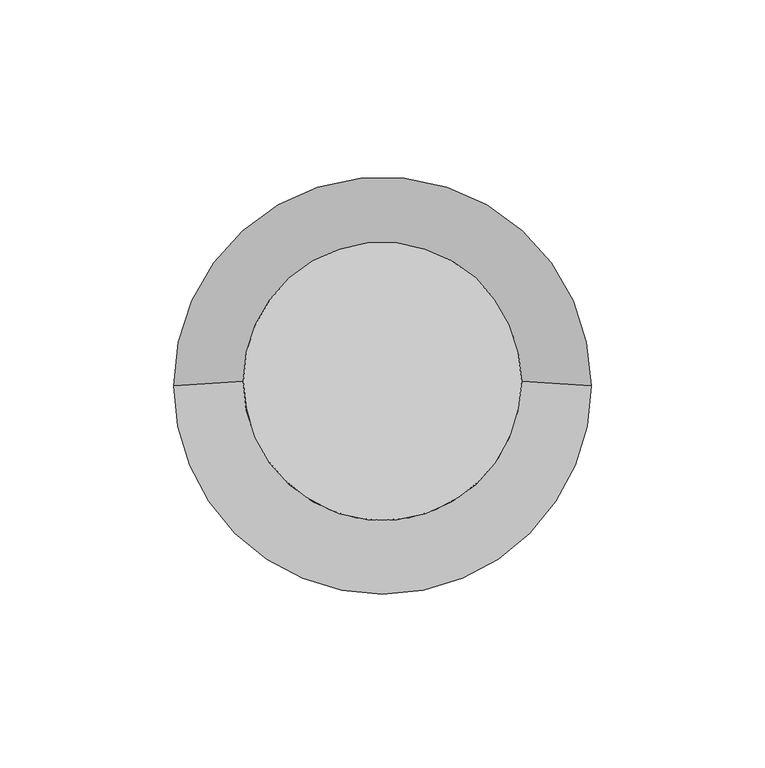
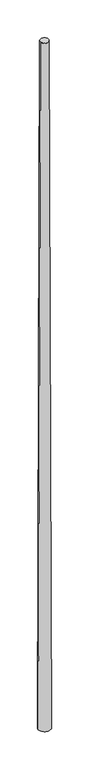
"""IFC4 building model written with IfcOpenShell, lengths in millimetres: furniture geometry, Columnas : Columnas."""

from ifc_helpers import new_model, si_unit, frame, origin, place, context, project, spatial, polyline, circle_curve, source, transform, mapped, element, save
from ifc_brep_helpers import plane_surface, revolved_surface, advanced_brep


def furniture_e62c53e2(model_context):
    return source(origin(), model_context, "Body", "AdvancedBrep", [
        advanced_brep(
        [(104.7003264, 279.937449, 0.0), (84.7003264, 279.937449, 7000.0), (4.7003264, 279.937449, 7000.0), (-15.2996736, 279.937449, 0.0)],
        [
            (0, 1),
            (1, 2, circle_curve(frame((44.7003264, 279.937449, 7000.0), z_axis=(0.0, 0.0, -1.0), x_axis=(1.0, 0.0, 0.0)), 40.0)),
            (2, 3),
            (3, 0, circle_curve(frame((44.7003264, 279.937449, 0.0), z_axis=(0.0, 0.0, 1.0), x_axis=(1.0, 0.0, 0.0)), 60.0)),
            (3, 0, circle_curve(frame((44.7003264, 279.937449, 0.0), z_axis=(0.0, 0.0, -1.0), x_axis=(-1.0, 0.0, 0.0)), 60.0)),
            (2, 1, circle_curve(frame((44.7003264, 279.937449, 7000.0), z_axis=(0.0, 0.0, -1.0), x_axis=(-1.0, 0.0, 0.0)), 40.0)),
        ],
        [
            revolved_surface(polyline([(84.70032640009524, 279.937449, 6999.999999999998), (104.7003264, 279.937449, 0.0)]), (44.7003264, 279.937449, 21000.0000001), (0.0, 0.0, -1.0)),
            plane_surface(frame((44.7003264, 279.937449, 0.0), z_axis=(0.0, 0.0, -1.0), x_axis=(0.0, 1.0, 0.0))),
            revolved_surface(polyline([(4.70032639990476, 279.937449, 6999.999999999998), (-15.299673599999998, 279.937449, 0.0)]), (44.7003264, 279.937449, 21000.0000001), (0.0, 0.0, -1.0)),
            plane_surface(frame((44.7003264, 279.937449, 7000.0), z_axis=(0.0, 0.0, 1.0), x_axis=(0.0, 1.0, 0.0))),
        ],
        [
            (0, [[1, 2, 3, 4]]),
            (1, [[5, -4]]),
            (2, [[-3, 6, -1, -5]]),
            (3, [[-2, -6]]),
        ],
    ),
    ])


if __name__ == "__main__":
    model = new_model("IFC4")
    model_context = context("Model", 3, world=origin())
    ifc_project = project(units=[si_unit("LENGTHUNIT", "METRE", prefix="MILLI")], contexts=[model_context])
    site = spatial("IfcSite", under=ifc_project)
    building = spatial("IfcBuilding", under=site)
    placement = place(None, origin())
    furniture_shape = furniture_e62c53e2(model_context)
    element("IfcFurniture", 1, ObjectType="Columnas : Columnas", at=placement, inside=building, context=model_context, shape_type="MappedRepresentation", body=[
        mapped(furniture_shape, transform((0.0, 0.0, 0.0), x_axis=(1.0, 0.0, 0.0), y_axis=(0.0, 1.0, 0.0), z_axis=(0.0, 0.0, 1.0))),
    ])
    save(model, "model.ifc")
